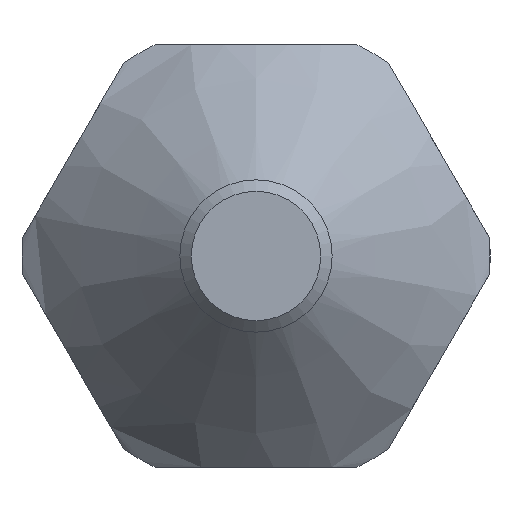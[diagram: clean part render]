
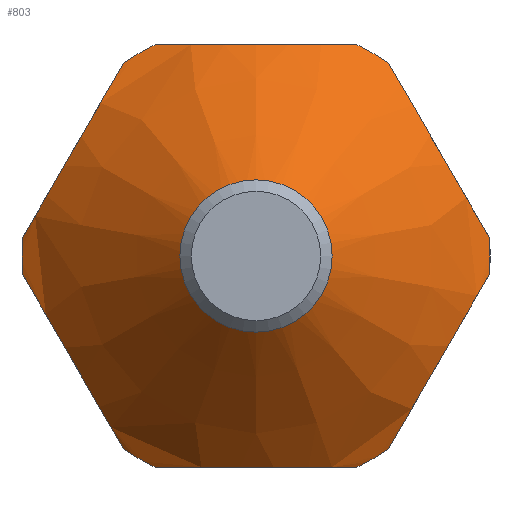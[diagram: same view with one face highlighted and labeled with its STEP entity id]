
A CAD part, left-side view. The second image highlights one B-rep face of the part: STEP entity #803.
In plain terms, the highlighted conical face has half-angle 45 degrees and reference radius 7.85 mm.
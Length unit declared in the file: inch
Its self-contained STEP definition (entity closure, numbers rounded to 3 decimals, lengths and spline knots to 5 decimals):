
#27=(
BOUNDED_CURVE()
B_SPLINE_CURVE(2,(#1264,#1265,#1266),.UNSPECIFIED.,.F.,.F.)
B_SPLINE_CURVE_WITH_KNOTS((3,3),(0.,1.08665),.UNSPECIFIED.)
CURVE()
GEOMETRIC_REPRESENTATION_ITEM()
RATIONAL_B_SPLINE_CURVE((1.,1.108,1.))
REPRESENTATION_ITEM('')
);
#30=(
BOUNDED_CURVE()
B_SPLINE_CURVE(2,(#1291,#1292,#1293),.UNSPECIFIED.,.F.,.F.)
B_SPLINE_CURVE_WITH_KNOTS((3,3),(0.,1.08665),.UNSPECIFIED.)
CURVE()
GEOMETRIC_REPRESENTATION_ITEM()
RATIONAL_B_SPLINE_CURVE((1.,1.108,1.))
REPRESENTATION_ITEM('')
);
#33=(
BOUNDED_CURVE()
B_SPLINE_CURVE(2,(#1318,#1319,#1320),.UNSPECIFIED.,.F.,.F.)
B_SPLINE_CURVE_WITH_KNOTS((3,3),(0.,1.08665),.UNSPECIFIED.)
CURVE()
GEOMETRIC_REPRESENTATION_ITEM()
RATIONAL_B_SPLINE_CURVE((1.,1.108,1.))
REPRESENTATION_ITEM('')
);
#36=(
BOUNDED_CURVE()
B_SPLINE_CURVE(2,(#1345,#1346,#1347),.UNSPECIFIED.,.F.,.F.)
B_SPLINE_CURVE_WITH_KNOTS((3,3),(0.54332,1.08665),
 .UNSPECIFIED.)
CURVE()
GEOMETRIC_REPRESENTATION_ITEM()
RATIONAL_B_SPLINE_CURVE((1.054,1.054,1.))
REPRESENTATION_ITEM('')
);
#37=(
BOUNDED_CURVE()
B_SPLINE_CURVE(2,(#1349,#1350,#1351),.UNSPECIFIED.,.F.,.F.)
B_SPLINE_CURVE_WITH_KNOTS((3,3),(0.,0.54332),.UNSPECIFIED.)
CURVE()
GEOMETRIC_REPRESENTATION_ITEM()
RATIONAL_B_SPLINE_CURVE((1.,1.054,1.054))
REPRESENTATION_ITEM('')
);
#40=(
BOUNDED_CURVE()
B_SPLINE_CURVE(2,(#1376,#1377,#1378),.UNSPECIFIED.,.F.,.F.)
B_SPLINE_CURVE_WITH_KNOTS((3,3),(0.,1.08665),.UNSPECIFIED.)
CURVE()
GEOMETRIC_REPRESENTATION_ITEM()
RATIONAL_B_SPLINE_CURVE((1.,1.108,1.))
REPRESENTATION_ITEM('')
);
#43=(
BOUNDED_CURVE()
B_SPLINE_CURVE(2,(#1403,#1404,#1405),.UNSPECIFIED.,.F.,.F.)
B_SPLINE_CURVE_WITH_KNOTS((3,3),(0.,1.08665),.UNSPECIFIED.)
CURVE()
GEOMETRIC_REPRESENTATION_ITEM()
RATIONAL_B_SPLINE_CURVE((1.,1.108,1.))
REPRESENTATION_ITEM('')
);
#48=CONICAL_SURFACE('',#897,0.30906,0.785);
#98=FACE_OUTER_BOUND('',#142,.T.);
#142=EDGE_LOOP('',(#600,#601,#602,#603,#604,#605,#606,#607,#608,#609,#610,
#611,#612,#613,#614,#615,#616));
#182=LINE('',#1427,#209);
#209=VECTOR('',#1079,0.30906);
#240=CIRCLE('',#884,0.48425);
#242=CIRCLE('',#887,0.48425);
#243=CIRCLE('',#889,0.48425);
#246=CIRCLE('',#893,0.48425);
#247=CIRCLE('',#895,0.48425);
#249=CIRCLE('',#898,0.13386);
#250=CIRCLE('',#899,0.13386);
#251=CIRCLE('',#900,0.48425);
#304=VERTEX_POINT('',#1261);
#305=VERTEX_POINT('',#1263);
#311=VERTEX_POINT('',#1288);
#312=VERTEX_POINT('',#1290);
#318=VERTEX_POINT('',#1315);
#319=VERTEX_POINT('',#1317);
#325=VERTEX_POINT('',#1342);
#326=VERTEX_POINT('',#1344);
#327=VERTEX_POINT('',#1348);
#333=VERTEX_POINT('',#1373);
#334=VERTEX_POINT('',#1375);
#340=VERTEX_POINT('',#1400);
#341=VERTEX_POINT('',#1402);
#342=VERTEX_POINT('',#1423);
#343=VERTEX_POINT('',#1424);
#396=EDGE_CURVE('',#305,#304,#27,.T.);
#403=EDGE_CURVE('',#312,#311,#30,.T.);
#410=EDGE_CURVE('',#319,#318,#33,.T.);
#417=EDGE_CURVE('',#326,#325,#36,.T.);
#418=EDGE_CURVE('',#327,#326,#37,.T.);
#425=EDGE_CURVE('',#334,#333,#40,.T.);
#432=EDGE_CURVE('',#341,#340,#43,.T.);
#435=EDGE_CURVE('',#318,#341,#240,.T.);
#437=EDGE_CURVE('',#311,#334,#242,.T.);
#438=EDGE_CURVE('',#333,#327,#243,.T.);
#441=EDGE_CURVE('',#304,#319,#246,.T.);
#442=EDGE_CURVE('',#340,#312,#247,.T.);
#444=EDGE_CURVE('',#342,#343,#249,.T.);
#445=EDGE_CURVE('',#343,#342,#250,.T.);
#446=EDGE_CURVE('',#343,#326,#182,.T.);
#447=EDGE_CURVE('',#325,#305,#251,.T.);
#600=ORIENTED_EDGE('',*,*,#444,.F.);
#601=ORIENTED_EDGE('',*,*,#445,.F.);
#602=ORIENTED_EDGE('',*,*,#446,.T.);
#603=ORIENTED_EDGE('',*,*,#417,.T.);
#604=ORIENTED_EDGE('',*,*,#447,.T.);
#605=ORIENTED_EDGE('',*,*,#396,.T.);
#606=ORIENTED_EDGE('',*,*,#441,.T.);
#607=ORIENTED_EDGE('',*,*,#410,.T.);
#608=ORIENTED_EDGE('',*,*,#435,.T.);
#609=ORIENTED_EDGE('',*,*,#432,.T.);
#610=ORIENTED_EDGE('',*,*,#442,.T.);
#611=ORIENTED_EDGE('',*,*,#403,.T.);
#612=ORIENTED_EDGE('',*,*,#437,.T.);
#613=ORIENTED_EDGE('',*,*,#425,.T.);
#614=ORIENTED_EDGE('',*,*,#438,.T.);
#615=ORIENTED_EDGE('',*,*,#418,.T.);
#616=ORIENTED_EDGE('',*,*,#446,.F.);
#803=ADVANCED_FACE('',(#98),#48,.T.);
#884=AXIS2_PLACEMENT_3D('',#1409,#1047,#1048);
#887=AXIS2_PLACEMENT_3D('',#1412,#1053,#1054);
#889=AXIS2_PLACEMENT_3D('',#1414,#1057,#1058);
#893=AXIS2_PLACEMENT_3D('',#1418,#1065,#1066);
#895=AXIS2_PLACEMENT_3D('',#1420,#1069,#1070);
#897=AXIS2_PLACEMENT_3D('',#1422,#1073,#1074);
#898=AXIS2_PLACEMENT_3D('',#1425,#1075,#1076);
#899=AXIS2_PLACEMENT_3D('',#1426,#1077,#1078);
#900=AXIS2_PLACEMENT_3D('',#1428,#1080,#1081);
#1047=DIRECTION('center_axis',(-1.,0.,0.));
#1048=DIRECTION('ref_axis',(0.,0.,-1.));
#1053=DIRECTION('center_axis',(-1.,0.,0.));
#1054=DIRECTION('ref_axis',(0.,0.,-1.));
#1057=DIRECTION('center_axis',(-1.,0.,0.));
#1058=DIRECTION('ref_axis',(0.,0.,-1.));
#1065=DIRECTION('center_axis',(-1.,0.,0.));
#1066=DIRECTION('ref_axis',(0.,0.,-1.));
#1069=DIRECTION('center_axis',(-1.,0.,0.));
#1070=DIRECTION('ref_axis',(0.,0.,-1.));
#1073=DIRECTION('center_axis',(1.,0.,0.));
#1074=DIRECTION('ref_axis',(0.,0.,-1.));
#1075=DIRECTION('center_axis',(-1.,0.,0.));
#1076=DIRECTION('ref_axis',(0.,0.,-1.));
#1077=DIRECTION('center_axis',(-1.,0.,0.));
#1078=DIRECTION('ref_axis',(0.,0.,-1.));
#1079=DIRECTION('',(0.707,0.,0.707));
#1080=DIRECTION('center_axis',(-1.,0.,0.));
#1081=DIRECTION('ref_axis',(0.,0.,-1.));
#1261=CARTESIAN_POINT('',(-1.24497,0.50403,0.21854));
#1263=CARTESIAN_POINT('',(-1.24497,0.29541,0.57989));
#1264=CARTESIAN_POINT('Ctrl Pts',(-1.24497,0.29541,0.57989));
#1265=CARTESIAN_POINT('Ctrl Pts',(-1.33485,0.39972,0.39921));
#1266=CARTESIAN_POINT('Ctrl Pts',(-1.24497,0.50403,0.21854));
#1288=CARTESIAN_POINT('',(-1.24497,-0.46151,0.14288));
#1290=CARTESIAN_POINT('',(-1.24497,-0.25289,-0.21847));
#1291=CARTESIAN_POINT('Ctrl Pts',(-1.24497,-0.25289,
-0.21847));
#1292=CARTESIAN_POINT('Ctrl Pts',(-1.33485,-0.3572,
-0.03779));
#1293=CARTESIAN_POINT('Ctrl Pts',(-1.24497,-0.46151,0.14288));
#1315=CARTESIAN_POINT('',(-1.24497,0.29541,-0.21847));
#1317=CARTESIAN_POINT('',(-1.24497,0.50403,0.14288));
#1318=CARTESIAN_POINT('Ctrl Pts',(-1.24497,0.50403,0.14288));
#1319=CARTESIAN_POINT('Ctrl Pts',(-1.33485,0.39972,-0.03779));
#1320=CARTESIAN_POINT('Ctrl Pts',(-1.24497,0.29541,-0.21847));
#1342=CARTESIAN_POINT('',(-1.24497,0.22989,0.61772));
#1344=CARTESIAN_POINT('',(-1.29222,0.02126,0.61772));
#1345=CARTESIAN_POINT('Ctrl Pts',(-1.29222,0.02126,
0.61772));
#1346=CARTESIAN_POINT('Ctrl Pts',(-1.29222,0.12022,0.61772));
#1347=CARTESIAN_POINT('Ctrl Pts',(-1.24497,0.22989,0.61772));
#1348=CARTESIAN_POINT('',(-1.24497,-0.18736,0.61772));
#1349=CARTESIAN_POINT('Ctrl Pts',(-1.24497,-0.18736,0.61772));
#1350=CARTESIAN_POINT('Ctrl Pts',(-1.29222,-0.0777,
0.61772));
#1351=CARTESIAN_POINT('Ctrl Pts',(-1.29222,0.02126,
0.61772));
#1373=CARTESIAN_POINT('',(-1.24497,-0.25289,0.57989));
#1375=CARTESIAN_POINT('',(-1.24497,-0.46151,0.21854));
#1376=CARTESIAN_POINT('Ctrl Pts',(-1.24497,-0.46151,0.21854));
#1377=CARTESIAN_POINT('Ctrl Pts',(-1.33485,-0.3572,
0.39921));
#1378=CARTESIAN_POINT('Ctrl Pts',(-1.24497,-0.25289,
0.57989));
#1400=CARTESIAN_POINT('',(-1.24497,-0.18736,-0.2563));
#1402=CARTESIAN_POINT('',(-1.24497,0.22989,-0.2563));
#1403=CARTESIAN_POINT('Ctrl Pts',(-1.24497,0.22989,-0.2563));
#1404=CARTESIAN_POINT('Ctrl Pts',(-1.33485,0.02126,
-0.2563));
#1405=CARTESIAN_POINT('Ctrl Pts',(-1.24497,-0.18736,
-0.2563));
#1409=CARTESIAN_POINT('Origin',(-1.24497,0.02126,0.18071));
#1412=CARTESIAN_POINT('Origin',(-1.24497,0.02126,0.18071));
#1414=CARTESIAN_POINT('Origin',(-1.24497,0.02126,0.18071));
#1418=CARTESIAN_POINT('Origin',(-1.24497,0.02126,0.18071));
#1420=CARTESIAN_POINT('Origin',(-1.24497,0.02126,0.18071));
#1422=CARTESIAN_POINT('Origin',(-1.42017,0.02126,0.18071));
#1423=CARTESIAN_POINT('',(-1.59536,0.02126,0.04685));
#1424=CARTESIAN_POINT('',(-1.59536,0.02126,0.31457));
#1425=CARTESIAN_POINT('Origin',(-1.59536,0.02126,0.18071));
#1426=CARTESIAN_POINT('Origin',(-1.59536,0.02126,0.18071));
#1427=CARTESIAN_POINT('',(-1.42017,0.02126,0.48976));
#1428=CARTESIAN_POINT('Origin',(-1.24497,0.02126,0.18071));
